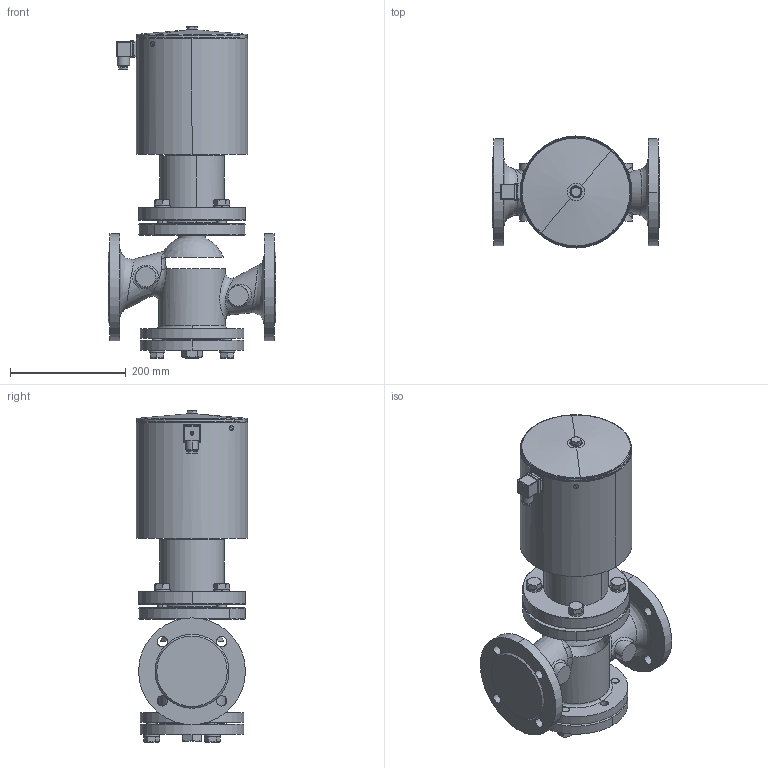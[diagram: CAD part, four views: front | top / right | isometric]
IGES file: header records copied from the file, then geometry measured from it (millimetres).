
Global section: file name: No Iges File Name specified; native system: AutoDesk Inventor R12.0; preprocessor: AutoDesk Inventor Iges Exporter R12.0; date: 20100518.083356; units: millimetre
Bounding box: 290 x 193.7 x 574.91 mm (x, y, z)
Volume: 11526197.8 mm3; surface area: 683186.8 mm2
Topology: 1 solids, 1 shells, 541 faces, 1348 edges, 840 vertices
Faces by surface type: plane 224, cylinder 127, cone 90, bspline 67, revolution 17, torus 11, sphere 5
